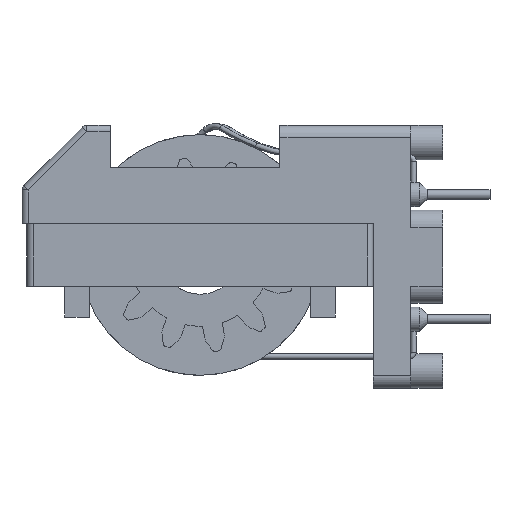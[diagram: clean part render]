
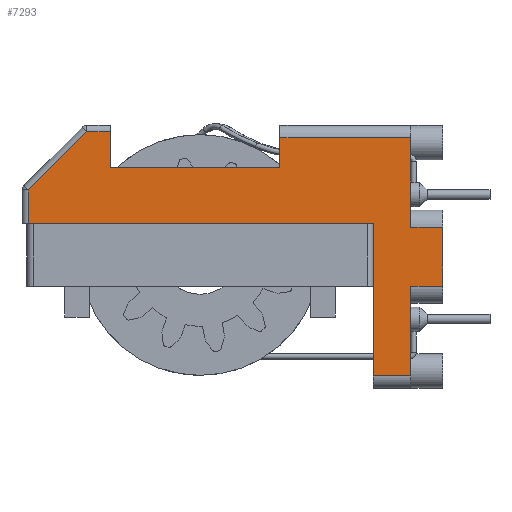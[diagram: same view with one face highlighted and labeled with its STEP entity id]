
A CAD part, left-side view. The second image highlights one B-rep face of the part: STEP entity #7293.
In plain terms, the highlighted planar face has unit normal (-1, 0, 0).
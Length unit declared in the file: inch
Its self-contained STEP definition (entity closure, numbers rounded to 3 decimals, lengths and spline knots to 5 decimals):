
#23 = DIRECTION ( 'NONE',  ( -1., 0., 0. ) ) ;
#126 = EDGE_CURVE ( 'NONE', #3455, #14163, #12134, .T. ) ;
#411 = VERTEX_POINT ( 'NONE', #8309 ) ;
#824 = VECTOR ( 'NONE', #16876, 39.37008 ) ;
#1103 = DIRECTION ( 'NONE',  ( 0., 1., 0. ) ) ;
#1246 = CARTESIAN_POINT ( 'NONE',  ( -2.17198, 0.38819, 0.74594 ) ) ;
#1258 = VECTOR ( 'NONE', #22417, 39.37008 ) ;
#1266 = VECTOR ( 'NONE', #4652, 39.37008 ) ;
#1660 = CARTESIAN_POINT ( 'NONE',  ( -2.17198, 1.23071, 0.61011 ) ) ;
#1764 = FACE_OUTER_BOUND ( 'NONE', #20692, .T. ) ;
#1800 = LINE ( 'NONE', #8538, #21233 ) ;
#1852 = LINE ( 'NONE', #22347, #1258 ) ;
#2055 = CARTESIAN_POINT ( 'NONE',  ( -2.17198, 0.26811, 0.41917 ) ) ;
#2399 = VERTEX_POINT ( 'NONE', #13076 ) ;
#2471 = CARTESIAN_POINT ( 'NONE',  ( -2.17198, 0.26811, 0.23019 ) ) ;
#2955 = DIRECTION ( 'NONE',  ( 0., 1., 0. ) ) ;
#3073 = ORIENTED_EDGE ( 'NONE', *, *, #23259, .T. ) ;
#3427 = VECTOR ( 'NONE', #9780, 39.37008 ) ;
#3455 = VERTEX_POINT ( 'NONE', #12530 ) ;
#3574 = CARTESIAN_POINT ( 'NONE',  ( -2.17198, 0.16575, 0.23019 ) ) ;
#3798 = CARTESIAN_POINT ( 'NONE',  ( -2.17198, 0.26811, 0.74594 ) ) ;
#3845 = AXIS2_PLACEMENT_3D ( 'NONE', #11457, #23, #4304 ) ;
#4296 = ORIENTED_EDGE ( 'NONE', *, *, #16475, .T. ) ;
#4304 = DIRECTION ( 'NONE',  ( 0., 0., 1. ) ) ;
#4414 = DIRECTION ( 'NONE',  ( 0., -1., 0. ) ) ;
#4652 = DIRECTION ( 'NONE',  ( 0., 0., -1. ) ) ;
#4701 = EDGE_CURVE ( 'NONE', #7249, #9611, #7992, .T. ) ;
#5118 = CARTESIAN_POINT ( 'NONE',  ( -2.17198, 1.3072, 0.72625 ) ) ;
#5208 = ORIENTED_EDGE ( 'NONE', *, *, #7952, .T. ) ;
#5510 = LINE ( 'NONE', #3574, #824 ) ;
#5606 = LINE ( 'NONE', #19373, #6219 ) ;
#6219 = VECTOR ( 'NONE', #4414, 39.37008 ) ;
#6496 = CARTESIAN_POINT ( 'NONE',  ( -2.17198, 0.6874, 0.61011 ) ) ;
#6789 = CARTESIAN_POINT ( 'NONE',  ( -2.17198, 0.6874, 0.61011 ) ) ;
#7249 = VERTEX_POINT ( 'NONE', #13214 ) ;
#7293 = ADVANCED_FACE ( 'NONE', ( #1764 ), #20691, .T. ) ;
#7673 = VECTOR ( 'NONE', #9276, 39.37008 ) ;
#7746 = DIRECTION ( 'NONE',  ( 0., 0.707, -0.707 ) ) ;
#7952 = EDGE_CURVE ( 'NONE', #12462, #8650, #13379, .T. ) ;
#7992 = LINE ( 'NONE', #22351, #13194 ) ;
#8097 = EDGE_CURVE ( 'NONE', #14163, #21930, #12256, .T. ) ;
#8309 = CARTESIAN_POINT ( 'NONE',  ( -2.17198, 0.26811, -0.05721 ) ) ;
#8316 = ORIENTED_EDGE ( 'NONE', *, *, #12801, .T. ) ;
#8538 = CARTESIAN_POINT ( 'NONE',  ( -2.17198, 0.16575, 0.41917 ) ) ;
#8650 = VERTEX_POINT ( 'NONE', #18804 ) ;
#8924 = EDGE_CURVE ( 'NONE', #9547, #10194, #1800, .T. ) ;
#9086 = VECTOR ( 'NONE', #1103, 39.37008 ) ;
#9276 = DIRECTION ( 'NONE',  ( 0., 0., -1. ) ) ;
#9414 = DIRECTION ( 'NONE',  ( 0., 1., 0. ) ) ;
#9547 = VERTEX_POINT ( 'NONE', #12886 ) ;
#9556 = ORIENTED_EDGE ( 'NONE', *, *, #10100, .F. ) ;
#9611 = VERTEX_POINT ( 'NONE', #22741 ) ;
#9780 = DIRECTION ( 'NONE',  ( 0., 0., -1. ) ) ;
#9787 = VERTEX_POINT ( 'NONE', #2471 ) ;
#9853 = ORIENTED_EDGE ( 'NONE', *, *, #12974, .F. ) ;
#10100 = EDGE_CURVE ( 'NONE', #7249, #10194, #10604, .T. ) ;
#10194 = VERTEX_POINT ( 'NONE', #2055 ) ;
#10604 = LINE ( 'NONE', #18561, #7673 ) ;
#10706 = DIRECTION ( 'NONE',  ( 0., 1., 0. ) ) ;
#10736 = EDGE_CURVE ( 'NONE', #2399, #9787, #5510, .T. ) ;
#10979 = CARTESIAN_POINT ( 'NONE',  ( -2.17198, 1.49449, 0.53897 ) ) ;
#11457 = CARTESIAN_POINT ( 'NONE',  ( -2.17198, 0.38819, 0.74594 ) ) ;
#11720 = VECTOR ( 'NONE', #18101, 39.37008 ) ;
#11863 = ORIENTED_EDGE ( 'NONE', *, *, #13125, .F. ) ;
#11937 = ORIENTED_EDGE ( 'NONE', *, *, #10736, .F. ) ;
#12008 = ORIENTED_EDGE ( 'NONE', *, *, #24374, .F. ) ;
#12080 = CARTESIAN_POINT ( 'NONE',  ( -2.17198, 0.38819, 0.72625 ) ) ;
#12134 = LINE ( 'NONE', #13879, #1266 ) ;
#12209 = ORIENTED_EDGE ( 'NONE', *, *, #4701, .T. ) ;
#12256 = LINE ( 'NONE', #6496, #19940 ) ;
#12462 = VERTEX_POINT ( 'NONE', #10979 ) ;
#12530 = CARTESIAN_POINT ( 'NONE',  ( -2.17198, 1.23071, 0.72625 ) ) ;
#12733 = VERTEX_POINT ( 'NONE', #17379 ) ;
#12735 = ORIENTED_EDGE ( 'NONE', *, *, #126, .F. ) ;
#12801 = EDGE_CURVE ( 'NONE', #3455, #13610, #17613, .T. ) ;
#12886 = CARTESIAN_POINT ( 'NONE',  ( -2.17198, 0.16575, 0.41917 ) ) ;
#12974 = EDGE_CURVE ( 'NONE', #20147, #8650, #21135, .T. ) ;
#13076 = CARTESIAN_POINT ( 'NONE',  ( -2.17198, 0.16575, 0.23019 ) ) ;
#13125 = EDGE_CURVE ( 'NONE', #9787, #411, #21416, .T. ) ;
#13194 = VECTOR ( 'NONE', #9414, 39.37008 ) ;
#13214 = CARTESIAN_POINT ( 'NONE',  ( -2.17198, 0.26811, 0.70657 ) ) ;
#13379 = LINE ( 'NONE', #21079, #3427 ) ;
#13610 = VERTEX_POINT ( 'NONE', #5118 ) ;
#13879 = CARTESIAN_POINT ( 'NONE',  ( -2.17198, 1.23071, 0.74594 ) ) ;
#14111 = LINE ( 'NONE', #14139, #18271 ) ;
#14139 = CARTESIAN_POINT ( 'NONE',  ( -2.17198, 0.16575, 0.41917 ) ) ;
#14163 = VERTEX_POINT ( 'NONE', #1660 ) ;
#14301 = CARTESIAN_POINT ( 'NONE',  ( -2.17198, 0.38819, 0.43098 ) ) ;
#15195 = CARTESIAN_POINT ( 'NONE',  ( -2.17198, 0.83785, 1.1956 ) ) ;
#16072 = ORIENTED_EDGE ( 'NONE', *, *, #8924, .T. ) ;
#16475 = EDGE_CURVE ( 'NONE', #20147, #12733, #21776, .T. ) ;
#16876 = DIRECTION ( 'NONE',  ( 0., 1., 0. ) ) ;
#17000 = VECTOR ( 'NONE', #7746, 39.37008 ) ;
#17379 = CARTESIAN_POINT ( 'NONE',  ( -2.17198, 0.38819, -0.05721 ) ) ;
#17613 = LINE ( 'NONE', #12080, #9086 ) ;
#17742 = ORIENTED_EDGE ( 'NONE', *, *, #20700, .F. ) ;
#18101 = DIRECTION ( 'NONE',  ( 0., 0., -1. ) ) ;
#18271 = VECTOR ( 'NONE', #19526, 39.37008 ) ;
#18372 = DIRECTION ( 'NONE',  ( 0., -1., 0. ) ) ;
#18561 = CARTESIAN_POINT ( 'NONE',  ( -2.17198, 0.26811, 0.74594 ) ) ;
#18804 = CARTESIAN_POINT ( 'NONE',  ( -2.17198, 1.49449, 0.43098 ) ) ;
#18845 = DIRECTION ( 'NONE',  ( 0., 0., -1. ) ) ;
#19373 = CARTESIAN_POINT ( 'NONE',  ( -2.17198, 0.38819, -0.05721 ) ) ;
#19526 = DIRECTION ( 'NONE',  ( 0., 0., -1. ) ) ;
#19656 = LINE ( 'NONE', #15195, #17000 ) ;
#19657 = VECTOR ( 'NONE', #10706, 39.37008 ) ;
#19796 = CARTESIAN_POINT ( 'NONE',  ( -2.17198, 0.38819, 0.43098 ) ) ;
#19940 = VECTOR ( 'NONE', #18372, 39.37008 ) ;
#20147 = VERTEX_POINT ( 'NONE', #19796 ) ;
#20625 = EDGE_CURVE ( 'NONE', #12733, #411, #5606, .T. ) ;
#20691 = PLANE ( 'NONE',  #3845 ) ;
#20692 = EDGE_LOOP ( 'NONE', ( #3073, #5208, #9853, #4296, #21054, #11863, #11937, #17742, #16072, #9556, #12209, #12008, #23103, #12735, #8316 ) ) ;
#20700 = EDGE_CURVE ( 'NONE', #9547, #2399, #14111, .T. ) ;
#21054 = ORIENTED_EDGE ( 'NONE', *, *, #20625, .T. ) ;
#21079 = CARTESIAN_POINT ( 'NONE',  ( -2.17198, 1.49449, 0.74594 ) ) ;
#21135 = LINE ( 'NONE', #14301, #19657 ) ;
#21233 = VECTOR ( 'NONE', #2955, 39.37008 ) ;
#21416 = LINE ( 'NONE', #3798, #22293 ) ;
#21776 = LINE ( 'NONE', #1246, #11720 ) ;
#21930 = VERTEX_POINT ( 'NONE', #6789 ) ;
#22293 = VECTOR ( 'NONE', #18845, 39.37008 ) ;
#22347 = CARTESIAN_POINT ( 'NONE',  ( -2.17198, 0.6874, 0.74594 ) ) ;
#22351 = CARTESIAN_POINT ( 'NONE',  ( -2.17198, 0.6874, 0.70657 ) ) ;
#22417 = DIRECTION ( 'NONE',  ( 0., 0., 1. ) ) ;
#22741 = CARTESIAN_POINT ( 'NONE',  ( -2.17198, 0.6874, 0.70657 ) ) ;
#23103 = ORIENTED_EDGE ( 'NONE', *, *, #8097, .F. ) ;
#23259 = EDGE_CURVE ( 'NONE', #13610, #12462, #19656, .T. ) ;
#24374 = EDGE_CURVE ( 'NONE', #21930, #9611, #1852, .T. ) ;
